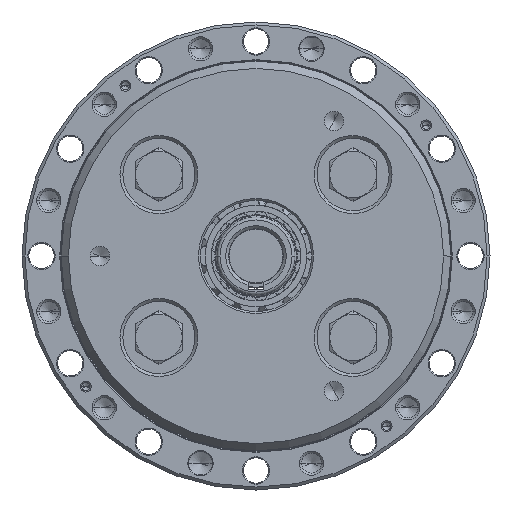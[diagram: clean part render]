
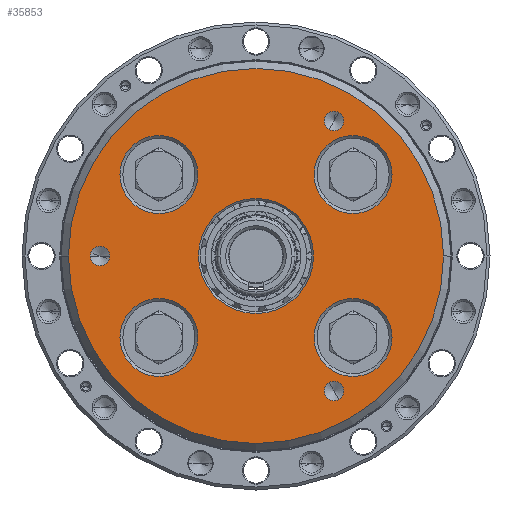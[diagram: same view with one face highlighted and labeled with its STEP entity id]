
A CAD part, left-side view. The second image highlights one B-rep face of the part: STEP entity #35853.
In plain terms, the highlighted planar face has unit normal (-1, 0, 0).
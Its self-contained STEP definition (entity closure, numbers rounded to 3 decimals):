
#8300=CARTESIAN_POINT('',(-49.,0.,0.));
#8301=DIRECTION('',(1.,0.,0.));
#8302=DIRECTION('',(0.,1.,0.));
#8303=AXIS2_PLACEMENT_3D('',#8300,#8301,#8302);
#8305=CARTESIAN_POINT('',(-49.,0.,0.));
#8306=DIRECTION('',(1.,0.,0.));
#8307=DIRECTION('',(0.,-1.,0.));
#8308=AXIS2_PLACEMENT_3D('',#8305,#8306,#8307);
#8310=CARTESIAN_POINT('',(-49.,80.,0.));
#8311=DIRECTION('',(1.,0.,0.));
#8312=DIRECTION('',(0.,1.,0.));
#8313=AXIS2_PLACEMENT_3D('',#8310,#8311,#8312);
#8315=CARTESIAN_POINT('',(-49.,80.,0.));
#8316=DIRECTION('',(1.,0.,0.));
#8317=DIRECTION('',(0.,-1.,0.));
#8318=AXIS2_PLACEMENT_3D('',#8315,#8316,#8317);
#8320=CARTESIAN_POINT('',(-49.,-40.,-69.282));
#8321=DIRECTION('',(1.,0.,0.));
#8322=DIRECTION('',(0.,-0.5,-0.866));
#8323=AXIS2_PLACEMENT_3D('',#8320,#8321,#8322);
#8325=CARTESIAN_POINT('',(-49.,-40.,-69.282));
#8326=DIRECTION('',(1.,0.,0.));
#8327=DIRECTION('',(0.,0.5,0.866));
#8328=AXIS2_PLACEMENT_3D('',#8325,#8326,#8327);
#8330=CARTESIAN_POINT('',(-49.,-40.,69.282));
#8331=DIRECTION('',(1.,0.,0.));
#8332=DIRECTION('',(0.,-0.5,0.866));
#8333=AXIS2_PLACEMENT_3D('',#8330,#8331,#8332);
#8335=CARTESIAN_POINT('',(-49.,-40.,69.282));
#8336=DIRECTION('',(1.,0.,0.));
#8337=DIRECTION('',(0.,0.5,-0.866));
#8338=AXIS2_PLACEMENT_3D('',#8335,#8336,#8337);
#8353=CARTESIAN_POINT('',(-49.,0.,0.));
#8354=DIRECTION('',(1.,0.,0.));
#8355=DIRECTION('',(0.,1.,0.));
#8356=AXIS2_PLACEMENT_3D('',#8353,#8354,#8355);
#8371=CARTESIAN_POINT('',(-49.,0.,0.));
#8372=DIRECTION('',(-1.,0.,0.));
#8373=DIRECTION('',(0.,1.,0.));
#8374=AXIS2_PLACEMENT_3D('',#8371,#8372,#8373);
#9087=CARTESIAN_POINT('',(-49.,-49.793,41.781));
#9088=DIRECTION('',(1.,0.,0.));
#9089=DIRECTION('',(0.,0.766,-0.643));
#9090=AXIS2_PLACEMENT_3D('',#9087,#9088,#9089);
#9105=CARTESIAN_POINT('',(-49.,-49.793,41.781));
#9106=DIRECTION('',(1.,0.,0.));
#9107=DIRECTION('',(0.,-0.766,0.643));
#9108=AXIS2_PLACEMENT_3D('',#9105,#9106,#9107);
#9535=CARTESIAN_POINT('',(-49.,49.793,41.781));
#9536=DIRECTION('',(1.,0.,0.));
#9537=DIRECTION('',(0.,-0.766,-0.643));
#9538=AXIS2_PLACEMENT_3D('',#9535,#9536,#9537);
#9553=CARTESIAN_POINT('',(-49.,49.793,41.781));
#9554=DIRECTION('',(1.,0.,0.));
#9555=DIRECTION('',(0.,0.766,0.643));
#9556=AXIS2_PLACEMENT_3D('',#9553,#9554,#9555);
#9983=CARTESIAN_POINT('',(-49.,49.793,-41.781));
#9984=DIRECTION('',(1.,0.,0.));
#9985=DIRECTION('',(0.,-0.766,0.643));
#9986=AXIS2_PLACEMENT_3D('',#9983,#9984,#9985);
#10001=CARTESIAN_POINT('',(-49.,49.793,-41.781));
#10002=DIRECTION('',(1.,0.,0.));
#10003=DIRECTION('',(0.,0.766,-0.643));
#10004=AXIS2_PLACEMENT_3D('',#10001,#10002,#10003);
#10431=CARTESIAN_POINT('',(-49.,-49.793,-41.781));
#10432=DIRECTION('',(1.,0.,0.));
#10433=DIRECTION('',(0.,0.766,0.643));
#10434=AXIS2_PLACEMENT_3D('',#10431,#10432,#10433);
#10449=CARTESIAN_POINT('',(-49.,-49.793,-41.781));
#10450=DIRECTION('',(1.,0.,0.));
#10451=DIRECTION('',(0.,-0.766,-0.643));
#10452=AXIS2_PLACEMENT_3D('',#10449,#10450,#10451);
#22582=CARTESIAN_POINT('',(-49.,85.,0.));
#22583=CARTESIAN_POINT('',(-49.,75.,0.));
#22584=VERTEX_POINT('',#22582);
#22585=VERTEX_POINT('',#22583);
#22592=CARTESIAN_POINT('',(-49.,-42.5,-73.612));
#22593=CARTESIAN_POINT('',(-49.,-37.5,-64.952));
#22594=VERTEX_POINT('',#22592);
#22595=VERTEX_POINT('',#22593);
#22602=CARTESIAN_POINT('',(-49.,-42.5,73.612));
#22603=CARTESIAN_POINT('',(-49.,-37.5,64.952));
#22604=VERTEX_POINT('',#22602);
#22605=VERTEX_POINT('',#22603);
#22606=CARTESIAN_POINT('',(-49.,-65.114,54.637));
#22607=CARTESIAN_POINT('',(-49.,-34.472,28.925));
#22608=VERTEX_POINT('',#22606);
#22609=VERTEX_POINT('',#22607);
#22614=CARTESIAN_POINT('',(-49.,65.114,54.637));
#22615=CARTESIAN_POINT('',(-49.,34.472,28.925));
#22616=VERTEX_POINT('',#22614);
#22617=VERTEX_POINT('',#22615);
#22622=CARTESIAN_POINT('',(-49.,65.114,-54.637));
#22623=CARTESIAN_POINT('',(-49.,34.472,-28.925));
#22624=VERTEX_POINT('',#22622);
#22625=VERTEX_POINT('',#22623);
#22630=CARTESIAN_POINT('',(-49.,-65.114,-54.637));
#22631=CARTESIAN_POINT('',(-49.,-34.472,-28.925));
#22632=VERTEX_POINT('',#22630);
#22633=VERTEX_POINT('',#22631);
#22658=CARTESIAN_POINT('',(-49.,29.5,0.));
#22659=CARTESIAN_POINT('',(-49.,-29.5,0.));
#22660=VERTEX_POINT('',#22658);
#22661=VERTEX_POINT('',#22659);
#22730=CARTESIAN_POINT('',(-49.,96.174,0.));
#22731=CARTESIAN_POINT('',(-49.,-96.174,0.));
#22732=VERTEX_POINT('',#22730);
#22733=VERTEX_POINT('',#22731);
#35795=CARTESIAN_POINT('',(-49.,0.,0.));
#35796=DIRECTION('',(-1.,0.,0.));
#35797=DIRECTION('',(0.,-1.,0.));
#35798=AXIS2_PLACEMENT_3D('',#35795,#35796,#35797);
#35799=PLANE('',#35798);
#35801=ORIENTED_EDGE('',*,*,#35800,.T.);
#35802=ORIENTED_EDGE('',*,*,#35785,.T.);
#35803=EDGE_LOOP('',(#35801,#35802));
#35804=FACE_OUTER_BOUND('',#35803,.F.);
#35806=ORIENTED_EDGE('',*,*,#35805,.F.);
#35808=ORIENTED_EDGE('',*,*,#35807,.T.);
#35809=EDGE_LOOP('',(#35806,#35808));
#35810=FACE_BOUND('',#35809,.F.);
#35812=ORIENTED_EDGE('',*,*,#35811,.F.);
#35814=ORIENTED_EDGE('',*,*,#35813,.F.);
#35815=EDGE_LOOP('',(#35812,#35814));
#35816=FACE_BOUND('',#35815,.F.);
#35818=ORIENTED_EDGE('',*,*,#35817,.F.);
#35820=ORIENTED_EDGE('',*,*,#35819,.F.);
#35821=EDGE_LOOP('',(#35818,#35820));
#35822=FACE_BOUND('',#35821,.F.);
#35824=ORIENTED_EDGE('',*,*,#35823,.F.);
#35826=ORIENTED_EDGE('',*,*,#35825,.F.);
#35827=EDGE_LOOP('',(#35824,#35826));
#35828=FACE_BOUND('',#35827,.F.);
#35830=ORIENTED_EDGE('',*,*,#35829,.F.);
#35832=ORIENTED_EDGE('',*,*,#35831,.F.);
#35833=EDGE_LOOP('',(#35830,#35832));
#35834=FACE_BOUND('',#35833,.F.);
#35836=ORIENTED_EDGE('',*,*,#35835,.F.);
#35838=ORIENTED_EDGE('',*,*,#35837,.F.);
#35839=EDGE_LOOP('',(#35836,#35838));
#35840=FACE_BOUND('',#35839,.F.);
#35842=ORIENTED_EDGE('',*,*,#35841,.F.);
#35844=ORIENTED_EDGE('',*,*,#35843,.F.);
#35845=EDGE_LOOP('',(#35842,#35844));
#35846=FACE_BOUND('',#35845,.F.);
#35848=ORIENTED_EDGE('',*,*,#35847,.F.);
#35850=ORIENTED_EDGE('',*,*,#35849,.F.);
#35851=EDGE_LOOP('',(#35848,#35850));
#35852=FACE_BOUND('',#35851,.F.);
#8304=CIRCLE('',#8303,96.174);
#8309=CIRCLE('',#8308,96.174);
#8314=CIRCLE('',#8313,5.);
#8319=CIRCLE('',#8318,5.);
#8324=CIRCLE('',#8323,5.);
#8329=CIRCLE('',#8328,5.);
#8334=CIRCLE('',#8333,5.);
#8339=CIRCLE('',#8338,5.);
#8357=CIRCLE('',#8356,29.5);
#8375=CIRCLE('',#8374,29.5);
#9091=CIRCLE('',#9090,20.);
#9109=CIRCLE('',#9108,20.);
#9539=CIRCLE('',#9538,20.);
#9557=CIRCLE('',#9556,20.);
#9987=CIRCLE('',#9986,20.);
#10005=CIRCLE('',#10004,20.);
#10435=CIRCLE('',#10434,20.);
#10453=CIRCLE('',#10452,20.);
#35785=EDGE_CURVE('',#22733,#22732,#8309,.T.);
#35800=EDGE_CURVE('',#22732,#22733,#8304,.T.);
#35805=EDGE_CURVE('',#22660,#22661,#8357,.T.);
#35807=EDGE_CURVE('',#22660,#22661,#8375,.T.);
#35811=EDGE_CURVE('',#22609,#22608,#9091,.T.);
#35813=EDGE_CURVE('',#22608,#22609,#9109,.T.);
#35817=EDGE_CURVE('',#22617,#22616,#9539,.T.);
#35819=EDGE_CURVE('',#22616,#22617,#9557,.T.);
#35823=EDGE_CURVE('',#22625,#22624,#9987,.T.);
#35825=EDGE_CURVE('',#22624,#22625,#10005,.T.);
#35829=EDGE_CURVE('',#22633,#22632,#10435,.T.);
#35831=EDGE_CURVE('',#22632,#22633,#10453,.T.);
#35835=EDGE_CURVE('',#22584,#22585,#8314,.T.);
#35837=EDGE_CURVE('',#22585,#22584,#8319,.T.);
#35841=EDGE_CURVE('',#22594,#22595,#8324,.T.);
#35843=EDGE_CURVE('',#22595,#22594,#8329,.T.);
#35847=EDGE_CURVE('',#22604,#22605,#8334,.T.);
#35849=EDGE_CURVE('',#22605,#22604,#8339,.T.);
#35853=ADVANCED_FACE('',(#35804,#35810,#35816,#35822,#35828,#35834,#35840,
#35846,#35852),#35799,.T.);
